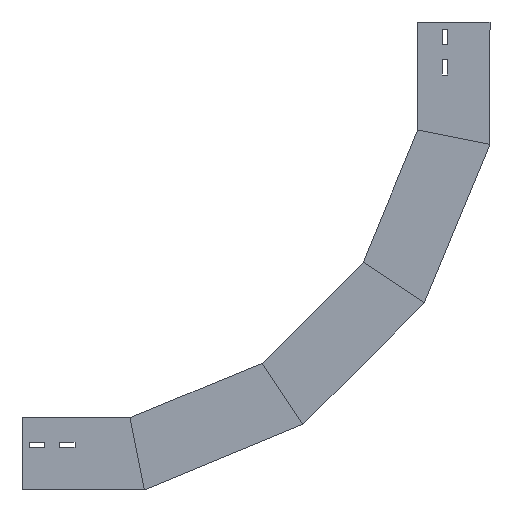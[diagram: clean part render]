
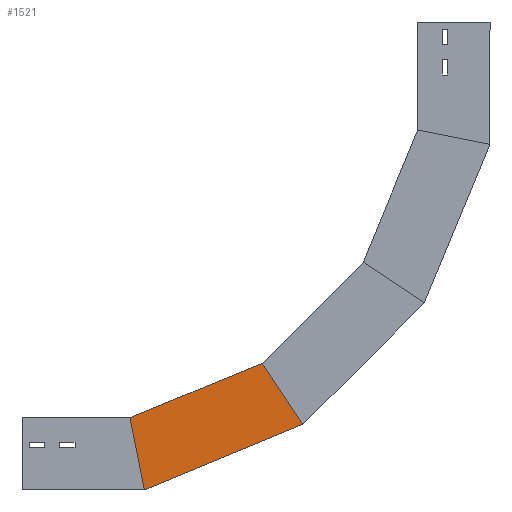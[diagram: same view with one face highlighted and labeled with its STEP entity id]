
A CAD part, left-side view. The second image highlights one B-rep face of the part: STEP entity #1521.
In plain terms, the highlighted planar face has unit normal (-1, 0, 0) as drawn and (1, 0, 0) by its records, which use the part's own axes.
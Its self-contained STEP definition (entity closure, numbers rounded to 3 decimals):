
#164 = DIRECTION ( 'NONE',  ( 0., -0.981, -0.195 ) ) ;
#204 = LINE ( 'NONE', #1741, #485 ) ;
#247 = DIRECTION ( 'NONE',  ( 0., 0.383, -0.924 ) ) ;
#379 = PLANE ( 'NONE',  #1650 ) ;
#470 = VERTEX_POINT ( 'NONE', #1210 ) ;
#485 = VECTOR ( 'NONE', #164, 1000. ) ;
#528 = ORIENTED_EDGE ( 'NONE', *, *, #567, .T. ) ;
#541 = DIRECTION ( 'NONE',  ( 0., -0.831, -0.556 ) ) ;
#548 = CARTESIAN_POINT ( 'NONE',  ( 0., 0., -169.6 ) ) ;
#567 = EDGE_CURVE ( 'NONE', #666, #1357, #700, .T. ) ;
#666 = VERTEX_POINT ( 'NONE', #925 ) ;
#669 = FACE_OUTER_BOUND ( 'NONE', #1885, .T. ) ;
#700 = LINE ( 'NONE', #548, #962 ) ;
#731 = VECTOR ( 'NONE', #541, 1000. ) ;
#740 = ORIENTED_EDGE ( 'NONE', *, *, #1436, .F. ) ;
#869 = DIRECTION ( 'NONE',  ( 0., 0.383, -0.924 ) ) ;
#916 = EDGE_CURVE ( 'NONE', #1239, #666, #204, .T. ) ;
#925 = CARTESIAN_POINT ( 'NONE',  ( 0., 0., -169.6 ) ) ;
#962 = VECTOR ( 'NONE', #869, 1000. ) ;
#978 = CARTESIAN_POINT ( 'NONE',  ( 0., 0., -169.6 ) ) ;
#1210 = CARTESIAN_POINT ( 'NONE',  ( 0., 175.893, -332.93 ) ) ;
#1239 = VERTEX_POINT ( 'NONE', #1632 ) ;
#1247 = ORIENTED_EDGE ( 'NONE', *, *, #1709, .F. ) ;
#1270 = CARTESIAN_POINT ( 'NONE',  ( 0., 92.388, -131.332 ) ) ;
#1286 = CARTESIAN_POINT ( 'NONE',  ( 0., 91.117, -389.576 ) ) ;
#1328 = DIRECTION ( 'NONE',  ( 0., 0., 1. ) ) ;
#1357 = VERTEX_POINT ( 'NONE', #1286 ) ;
#1403 = CARTESIAN_POINT ( 'NONE',  ( 0., 129.74, -363.769 ) ) ;
#1436 = EDGE_CURVE ( 'NONE', #1239, #470, #1820, .T. ) ;
#1442 = VECTOR ( 'NONE', #247, 1000. ) ;
#1516 = ORIENTED_EDGE ( 'NONE', *, *, #916, .T. ) ;
#1521 = ADVANCED_FACE ( 'NONE', ( #669 ), #379, .F. ) ;
#1562 = DIRECTION ( 'NONE',  ( -1., 0., 0. ) ) ;
#1583 = LINE ( 'NONE', #1403, #731 ) ;
#1632 = CARTESIAN_POINT ( 'NONE',  ( 0., 100., -149.709 ) ) ;
#1650 = AXIS2_PLACEMENT_3D ( 'NONE', #978, #1562, #1328 ) ;
#1709 = EDGE_CURVE ( 'NONE', #470, #1357, #1583, .T. ) ;
#1741 = CARTESIAN_POINT ( 'NONE',  ( 0., 32.452, -163.145 ) ) ;
#1820 = LINE ( 'NONE', #1270, #1442 ) ;
#1885 = EDGE_LOOP ( 'NONE', ( #740, #1516, #528, #1247 ) ) ;
